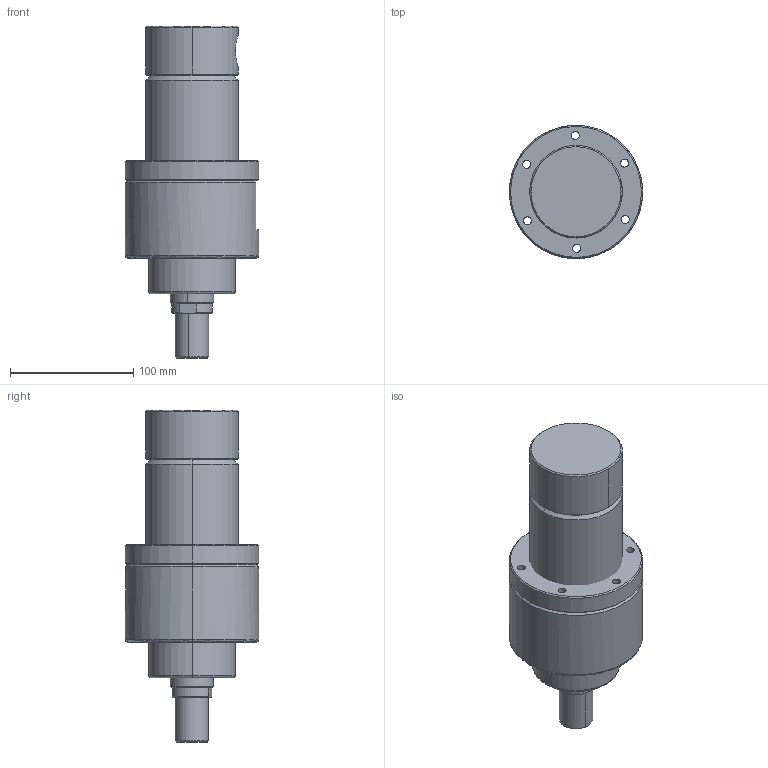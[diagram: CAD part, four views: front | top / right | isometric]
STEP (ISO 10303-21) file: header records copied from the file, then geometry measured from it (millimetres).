
FILE_DESCRIPTION (( 'STEP AP214' ), '1' );
FILE_NAME ('63-35-25-WEB.STEP', '2021-01-13T11:57:58', ( 'cagdas' ), ( '' ), 'SwSTEP 2.0', 'SolidWorks 2021', '' );
FILE_SCHEMA (( 'AUTOMOTIVE_DESIGN' ));
Length unit declared in the file: millimetre
Products named in the file (6): TYAK_63_75; 35_K_MIL_WEB; 63_Gerdirme _Flansý; 63x75_BORU_WEB; 63-35-25-WEB; 63_36_CETOP_烰_KAPAK
Assembly tree (5 placements, depth 2):
  63-35-25-WEB
    63x75_BORU_WEB
    TYAK_63_75
    63_36_CETOP_烰_KAPAK
    63_Gerdirme _Flansý
    35_K_MIL_WEB
Bounding box: 107.99 x 107.99 x 269 mm (x, y, z)
Volume: 1116188.4 mm3; surface area: 179958.4 mm2
Topology: 5 solids, 5 shells, 377 faces, 925 edges, 590 vertices
Faces by surface type: plane 120, cylinder 102, bspline 87, cone 64, torus 4
Entity records: 17205 total; most frequent: CARTESIAN_POINT 8384, ORIENTED_EDGE 1850, DIRECTION 1528, EDGE_CURVE 925, VERTEX_POINT 590, AXIS2_PLACEMENT_3D 575, EDGE_LOOP 443, LINE 378
